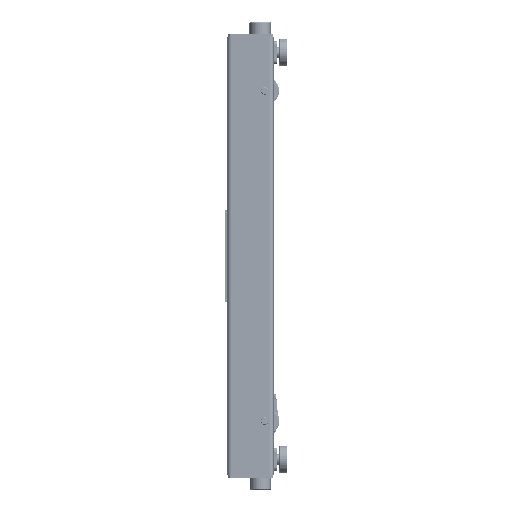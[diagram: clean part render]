
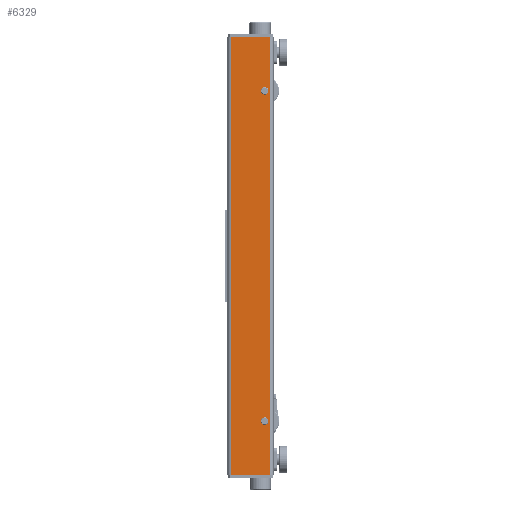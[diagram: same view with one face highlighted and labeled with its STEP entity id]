
A CAD part, left-side view. The second image highlights one B-rep face of the part: STEP entity #6329.
In plain terms, the highlighted planar face has unit normal (-1, 0, 0).
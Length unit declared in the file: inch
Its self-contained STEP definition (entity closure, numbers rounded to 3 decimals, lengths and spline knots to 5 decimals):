
#1500 = CARTESIAN_POINT ( 'NONE',  ( 0., 0.5, 28.5625 ) ) ;
#3880 = LINE ( 'NONE', #16511, #113103 ) ;
#4062 = AXIS2_PLACEMENT_3D ( 'NONE', #1500, #103347, #164846 ) ;
#6325 = ORIENTED_EDGE ( 'NONE', *, *, #54113, .T. ) ;
#6329 = ADVANCED_FACE ( 'NONE', ( #13290, #116826, #91536 ), #113514, .F. ) ;
#10661 = EDGE_CURVE ( 'NONE', #148116, #165830, #3880, .T. ) ;
#10821 = VERTEX_POINT ( 'NONE', #109894 ) ;
#13290 = FACE_BOUND ( 'NONE', #144703, .T. ) ;
#13994 = ORIENTED_EDGE ( 'NONE', *, *, #37415, .T. ) ;
#15530 = DIRECTION ( 'NONE',  ( 0., 1., 0. ) ) ;
#16511 = CARTESIAN_POINT ( 'NONE',  ( 0., 0.5, 28.5625 ) ) ;
#17603 = VECTOR ( 'NONE', #140000, 39.37008 ) ;
#17956 = EDGE_CURVE ( 'NONE', #10821, #81565, #114335, .T. ) ;
#18924 = ORIENTED_EDGE ( 'NONE', *, *, #117493, .F. ) ;
#19374 = DIRECTION ( 'NONE',  ( 1., 0., 0. ) ) ;
#19472 = CIRCLE ( 'NONE', #35562, 0.4925 ) ;
#21125 = VERTEX_POINT ( 'NONE', #40161 ) ;
#24763 = DIRECTION ( 'NONE',  ( 0., 1., 0. ) ) ;
#24792 = DIRECTION ( 'NONE',  ( 0., -1., 0. ) ) ;
#24944 = ORIENTED_EDGE ( 'NONE', *, *, #39429, .T. ) ;
#27540 = VECTOR ( 'NONE', #164714, 39.37008 ) ;
#30078 = ORIENTED_EDGE ( 'NONE', *, *, #62124, .T. ) ;
#35562 = AXIS2_PLACEMENT_3D ( 'NONE', #105998, #81591, #39541 ) ;
#37390 = LINE ( 'NONE', #140067, #67422 ) ;
#37415 = EDGE_CURVE ( 'NONE', #161611, #141141, #155127, .T. ) ;
#39429 = EDGE_CURVE ( 'NONE', #148116, #21125, #126806, .T. ) ;
#39541 = DIRECTION ( 'NONE',  ( 0., 1., 0. ) ) ;
#40161 = CARTESIAN_POINT ( 'NONE',  ( 0., 5.5, -28.5625 ) ) ;
#48074 = ORIENTED_EDGE ( 'NONE', *, *, #10661, .F. ) ;
#49503 = CARTESIAN_POINT ( 'NONE',  ( 0., 0.6525, -21.5005 ) ) ;
#52522 = CARTESIAN_POINT ( 'NONE',  ( 0., 1.145, -21.5005 ) ) ;
#54113 = EDGE_CURVE ( 'NONE', #141141, #161611, #19472, .T. ) ;
#55289 = CARTESIAN_POINT ( 'NONE',  ( 0., 0.5, -28.5625 ) ) ;
#58339 = AXIS2_PLACEMENT_3D ( 'NONE', #136321, #19374, #122062 ) ;
#62124 = EDGE_CURVE ( 'NONE', #21125, #161358, #37390, .T. ) ;
#64104 = EDGE_LOOP ( 'NONE', ( #153642, #140020 ) ) ;
#67422 = VECTOR ( 'NONE', #24792, 39.37008 ) ;
#67694 = DIRECTION ( 'NONE',  ( 1., 0., 0. ) ) ;
#74052 = AXIS2_PLACEMENT_3D ( 'NONE', #130814, #67694, #15530 ) ;
#81565 = VERTEX_POINT ( 'NONE', #49503 ) ;
#81591 = DIRECTION ( 'NONE',  ( 1., 0., 0. ) ) ;
#89508 = LINE ( 'NONE', #140842, #17603 ) ;
#90471 = CARTESIAN_POINT ( 'NONE',  ( 0., 1.6375, 21.5005 ) ) ;
#91536 = FACE_OUTER_BOUND ( 'NONE', #95447, .T. ) ;
#95447 = EDGE_LOOP ( 'NONE', ( #30078, #18924, #48074, #24944 ) ) ;
#99747 = CARTESIAN_POINT ( 'NONE',  ( 0., 0.5, 28.5625 ) ) ;
#103022 = EDGE_CURVE ( 'NONE', #81565, #10821, #106585, .T. ) ;
#103347 = DIRECTION ( 'NONE',  ( 1., 0., 0. ) ) ;
#105998 = CARTESIAN_POINT ( 'NONE',  ( 0., 1.145, 21.5005 ) ) ;
#106585 = CIRCLE ( 'NONE', #149640, 0.4925 ) ;
#109894 = CARTESIAN_POINT ( 'NONE',  ( 0., 1.6375, -21.5005 ) ) ;
#113103 = VECTOR ( 'NONE', #142762, 39.37008 ) ;
#113514 = PLANE ( 'NONE',  #4062 ) ;
#114335 = CIRCLE ( 'NONE', #74052, 0.4925 ) ;
#116826 = FACE_BOUND ( 'NONE', #64104, .T. ) ;
#117493 = EDGE_CURVE ( 'NONE', #165830, #161358, #89508, .T. ) ;
#122062 = DIRECTION ( 'NONE',  ( 0., 1., 0. ) ) ;
#126806 = LINE ( 'NONE', #154563, #27540 ) ;
#130814 = CARTESIAN_POINT ( 'NONE',  ( 0., 1.145, -21.5005 ) ) ;
#133943 = CARTESIAN_POINT ( 'NONE',  ( 0., 0.6525, 21.5005 ) ) ;
#136321 = CARTESIAN_POINT ( 'NONE',  ( 0., 1.145, 21.5005 ) ) ;
#140000 = DIRECTION ( 'NONE',  ( 0., 0., -1. ) ) ;
#140020 = ORIENTED_EDGE ( 'NONE', *, *, #103022, .T. ) ;
#140067 = CARTESIAN_POINT ( 'NONE',  ( 0., 0.5, -28.5625 ) ) ;
#140842 = CARTESIAN_POINT ( 'NONE',  ( 0., 0.5, 28.5625 ) ) ;
#141141 = VERTEX_POINT ( 'NONE', #90471 ) ;
#142762 = DIRECTION ( 'NONE',  ( 0., -1., 0. ) ) ;
#144703 = EDGE_LOOP ( 'NONE', ( #6325, #13994 ) ) ;
#148116 = VERTEX_POINT ( 'NONE', #156669 ) ;
#149640 = AXIS2_PLACEMENT_3D ( 'NONE', #52522, #151885, #24763 ) ;
#151885 = DIRECTION ( 'NONE',  ( 1., 0., 0. ) ) ;
#153642 = ORIENTED_EDGE ( 'NONE', *, *, #17956, .T. ) ;
#154563 = CARTESIAN_POINT ( 'NONE',  ( 0., 5.5, 28.5625 ) ) ;
#155127 = CIRCLE ( 'NONE', #58339, 0.4925 ) ;
#156669 = CARTESIAN_POINT ( 'NONE',  ( 0., 5.5, 28.5625 ) ) ;
#161358 = VERTEX_POINT ( 'NONE', #55289 ) ;
#161611 = VERTEX_POINT ( 'NONE', #133943 ) ;
#164714 = DIRECTION ( 'NONE',  ( 0., 0., -1. ) ) ;
#164846 = DIRECTION ( 'NONE',  ( 0., 1., 0. ) ) ;
#165830 = VERTEX_POINT ( 'NONE', #99747 ) ;
